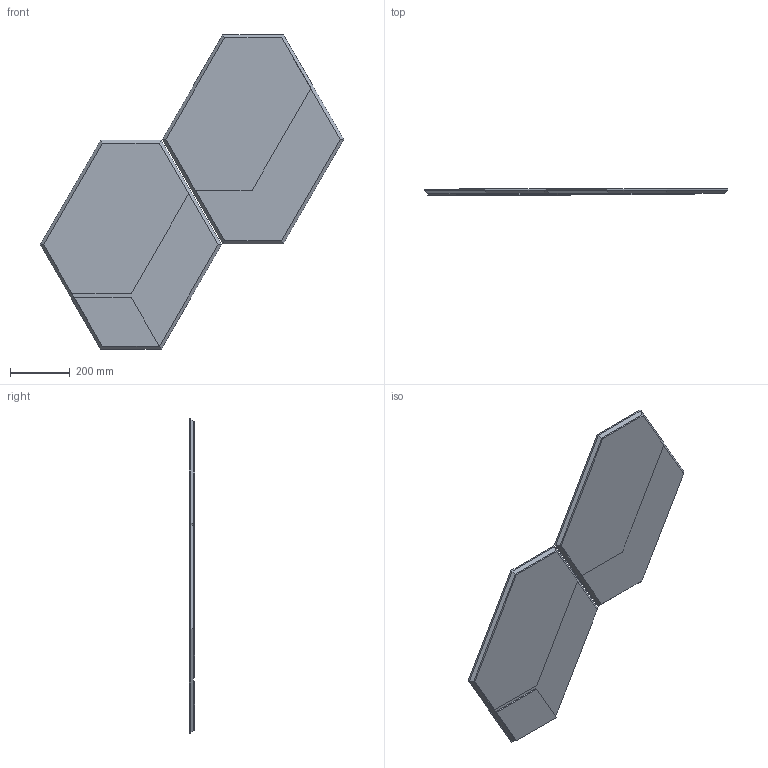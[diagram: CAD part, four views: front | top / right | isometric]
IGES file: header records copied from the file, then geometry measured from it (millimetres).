
Start section: SolidWorks IGES file using analytic representation for surfaces
Global section: file name: Y:\eforma\TECNICO\SOLIDWORKS\E-FORMA\4-SPECCHI\GEO\02 parts\GEO20_GeoBC_110x104.IGS; native system: SolidWorks 2022; preprocessor: SolidWorks 2022; author: eforma.tech; date: 240806.092241; units: millimetre
Bounding box: 1015.26 x 20 x 1052.6 mm (x, y, z)
Volume: 9981884.1 mm3; surface area: 1925518.5 mm2
Topology: 9 solids, 9 shells, 250 faces, 644 edges, 412 vertices
Faces by surface type: plane 146, revolution 104
